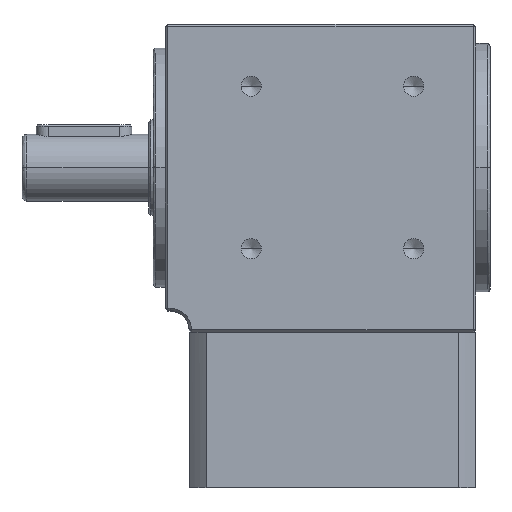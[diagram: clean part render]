
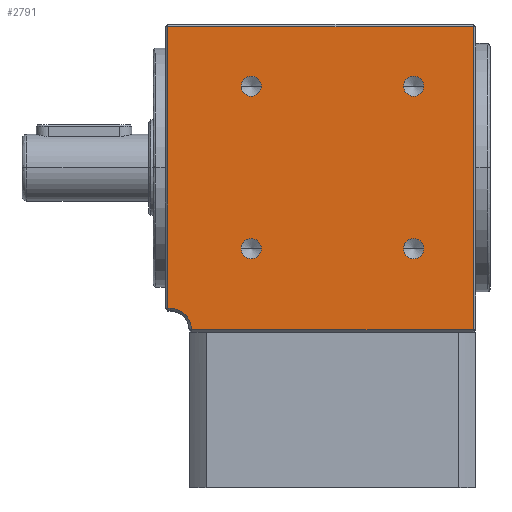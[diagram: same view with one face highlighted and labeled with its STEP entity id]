
A CAD part, top view. The second image highlights one B-rep face of the part: STEP entity #2791.
In plain terms, the highlighted planar face has unit normal (0, 0, 1).
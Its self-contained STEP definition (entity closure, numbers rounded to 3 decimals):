
#3 = CARTESIAN_POINT ( 'NONE',  ( -16.6, 17., 30. ) ) ;
#92 = CARTESIAN_POINT ( 'NONE',  ( 32., -34., 30. ) ) ;
#129 = LINE ( 'NONE', #6268, #2120 ) ;
#381 = EDGE_LOOP ( 'NONE', ( #3003, #8346, #8738, #6991, #8204, #8198 ) ) ;
#409 = EDGE_CURVE ( 'NONE', #3041, #7468, #8222, .T. ) ;
#451 = EDGE_CURVE ( 'NONE', #8792, #4857, #5998, .T. ) ;
#482 = EDGE_CURVE ( 'NONE', #8832, #2230, #5241, .T. ) ;
#483 = ORIENTED_EDGE ( 'NONE', *, *, #1690, .F. ) ;
#515 = EDGE_LOOP ( 'NONE', ( #483, #4224 ) ) ;
#522 = EDGE_CURVE ( 'NONE', #5189, #2685, #595, .T. ) ;
#530 = AXIS2_PLACEMENT_3D ( 'NONE', #7454, #7444, #7435 ) ;
#595 = CIRCLE ( 'NONE', #5652, 2.1 ) ;
#824 = LINE ( 'NONE', #9157, #2585 ) ;
#953 = ORIENTED_EDGE ( 'NONE', *, *, #409, .F. ) ;
#1379 = ORIENTED_EDGE ( 'NONE', *, *, #1677, .F. ) ;
#1635 = ORIENTED_EDGE ( 'NONE', *, *, #522, .F. ) ;
#1677 = EDGE_CURVE ( 'NONE', #2685, #5189, #1814, .T. ) ;
#1690 = EDGE_CURVE ( 'NONE', #2230, #8832, #1702, .T. ) ;
#1691 = EDGE_CURVE ( 'NONE', #4857, #8792, #1731, .T. ) ;
#1702 = CIRCLE ( 'NONE', #2312, 2.1 ) ;
#1707 = EDGE_CURVE ( 'NONE', #7468, #3041, #1853, .T. ) ;
#1713 = CARTESIAN_POINT ( 'NONE',  ( -12.4, -17., 30. ) ) ;
#1723 = EDGE_CURVE ( 'NONE', #3733, #7269, #129, .T. ) ;
#1731 = CIRCLE ( 'NONE', #2267, 2.1 ) ;
#1814 = CIRCLE ( 'NONE', #2326, 2.1 ) ;
#1853 = CIRCLE ( 'NONE', #2238, 2.1 ) ;
#1905 = EDGE_CURVE ( 'NONE', #2483, #2785, #824, .T. ) ;
#1929 = EDGE_LOOP ( 'NONE', ( #1379, #1635 ) ) ;
#2021 = ORIENTED_EDGE ( 'NONE', *, *, #1691, .F. ) ;
#2120 = VECTOR ( 'NONE', #6548, 1000. ) ;
#2170 = EDGE_LOOP ( 'NONE', ( #2021, #3663 ) ) ;
#2227 = EDGE_CURVE ( 'NONE', #2483, #7269, #8591, .T. ) ;
#2229 = EDGE_CURVE ( 'NONE', #3733, #2512, #8634, .T. ) ;
#2230 = VERTEX_POINT ( 'NONE', #7465 ) ;
#2238 = AXIS2_PLACEMENT_3D ( 'NONE', #6339, #6326, #6770 ) ;
#2242 = EDGE_CURVE ( 'NONE', #2512, #3118, #8310, .T. ) ;
#2244 = EDGE_CURVE ( 'NONE', #3118, #2785, #8327, .T. ) ;
#2267 = AXIS2_PLACEMENT_3D ( 'NONE', #6158, #6783, #6060 ) ;
#2312 = AXIS2_PLACEMENT_3D ( 'NONE', #6676, #5722, #5690 ) ;
#2326 = AXIS2_PLACEMENT_3D ( 'NONE', #6308, #6760, #6347 ) ;
#2370 = EDGE_LOOP ( 'NONE', ( #7349, #953 ) ) ;
#2483 = VERTEX_POINT ( 'NONE', #5852 ) ;
#2512 = VERTEX_POINT ( 'NONE', #5846 ) ;
#2585 = VECTOR ( 'NONE', #9129, 1000. ) ;
#2685 = VERTEX_POINT ( 'NONE', #4730 ) ;
#2744 = CARTESIAN_POINT ( 'NONE',  ( -32., 29.5, 30. ) ) ;
#2785 = VERTEX_POINT ( 'NONE', #4267 ) ;
#2791 = ADVANCED_FACE ( 'NONE', ( #4226, #4179, #4095, #4073, #4072 ), #4258, .F. ) ;
#2968 = CARTESIAN_POINT ( 'NONE',  ( 17.4, -17., 30. ) ) ;
#3003 = ORIENTED_EDGE ( 'NONE', *, *, #2227, .T. ) ;
#3041 = VERTEX_POINT ( 'NONE', #2968 ) ;
#3118 = VERTEX_POINT ( 'NONE', #2744 ) ;
#3663 = ORIENTED_EDGE ( 'NONE', *, *, #451, .F. ) ;
#3733 = VERTEX_POINT ( 'NONE', #92 ) ;
#4053 = CARTESIAN_POINT ( 'NONE',  ( 17.4, 17., 30. ) ) ;
#4072 = FACE_BOUND ( 'NONE', #1929, .T. ) ;
#4073 = FACE_BOUND ( 'NONE', #515, .T. ) ;
#4095 = FACE_BOUND ( 'NONE', #2170, .T. ) ;
#4107 = DIRECTION ( 'NONE',  ( -1., 0., 0. ) ) ;
#4114 = DIRECTION ( 'NONE',  ( 0., 0., -1. ) ) ;
#4122 = CARTESIAN_POINT ( 'NONE',  ( 0., 0., 30. ) ) ;
#4179 = FACE_BOUND ( 'NONE', #2370, .T. ) ;
#4224 = ORIENTED_EDGE ( 'NONE', *, *, #482, .F. ) ;
#4226 = FACE_OUTER_BOUND ( 'NONE', #381, .T. ) ;
#4258 = PLANE ( 'NONE',  #8440 ) ;
#4267 = CARTESIAN_POINT ( 'NONE',  ( -32., -29.5, 30. ) ) ;
#4338 = CARTESIAN_POINT ( 'NONE',  ( -16.6, -17., 30. ) ) ;
#4730 = CARTESIAN_POINT ( 'NONE',  ( -12.4, 17., 30. ) ) ;
#4857 = VERTEX_POINT ( 'NONE', #1713 ) ;
#5189 = VERTEX_POINT ( 'NONE', #3 ) ;
#5241 = CIRCLE ( 'NONE', #5871, 2.1 ) ;
#5652 = AXIS2_PLACEMENT_3D ( 'NONE', #8049, #8059, #8290 ) ;
#5690 = DIRECTION ( 'NONE',  ( 1., 0., 0. ) ) ;
#5722 = DIRECTION ( 'NONE',  ( 0., 0., 1. ) ) ;
#5846 = CARTESIAN_POINT ( 'NONE',  ( 32., 29.5, 30. ) ) ;
#5852 = CARTESIAN_POINT ( 'NONE',  ( -31.5, -29.5, 30. ) ) ;
#5871 = AXIS2_PLACEMENT_3D ( 'NONE', #7326, #7341, #7347 ) ;
#5904 = AXIS2_PLACEMENT_3D ( 'NONE', #7434, #7708, #8518 ) ;
#5979 = AXIS2_PLACEMENT_3D ( 'NONE', #7501, #7509, #7539 ) ;
#5998 = CIRCLE ( 'NONE', #5904, 2.1 ) ;
#6060 = DIRECTION ( 'NONE',  ( 1., 0., 0. ) ) ;
#6158 = CARTESIAN_POINT ( 'NONE',  ( -14.5, -17., 30. ) ) ;
#6268 = CARTESIAN_POINT ( 'NONE',  ( 0., -34., 30. ) ) ;
#6308 = CARTESIAN_POINT ( 'NONE',  ( -14.5, 17., 30. ) ) ;
#6326 = DIRECTION ( 'NONE',  ( 0., 0., 1. ) ) ;
#6339 = CARTESIAN_POINT ( 'NONE',  ( 19.5, -17., 30. ) ) ;
#6347 = DIRECTION ( 'NONE',  ( 1., 0., 0. ) ) ;
#6548 = DIRECTION ( 'NONE',  ( -1., 0., 0. ) ) ;
#6676 = CARTESIAN_POINT ( 'NONE',  ( 19.5, 17., 30. ) ) ;
#6760 = DIRECTION ( 'NONE',  ( 0., 0., 1. ) ) ;
#6770 = DIRECTION ( 'NONE',  ( 1., 0., 0. ) ) ;
#6783 = DIRECTION ( 'NONE',  ( 0., 0., 1. ) ) ;
#6991 = ORIENTED_EDGE ( 'NONE', *, *, #2242, .T. ) ;
#7269 = VERTEX_POINT ( 'NONE', #7844 ) ;
#7282 = DIRECTION ( 'NONE',  ( 0., -1., 0. ) ) ;
#7289 = CARTESIAN_POINT ( 'NONE',  ( -32., 0., 30. ) ) ;
#7326 = CARTESIAN_POINT ( 'NONE',  ( 19.5, 17., 30. ) ) ;
#7327 = CARTESIAN_POINT ( 'NONE',  ( 0., 29.5, 30. ) ) ;
#7341 = DIRECTION ( 'NONE',  ( 0., 0., 1. ) ) ;
#7347 = DIRECTION ( 'NONE',  ( 1., 0., 0. ) ) ;
#7349 = ORIENTED_EDGE ( 'NONE', *, *, #1707, .F. ) ;
#7402 = DIRECTION ( 'NONE',  ( -1., 0., 0. ) ) ;
#7434 = CARTESIAN_POINT ( 'NONE',  ( -14.5, -17., 30. ) ) ;
#7435 = DIRECTION ( 'NONE',  ( 0., -1., 0. ) ) ;
#7444 = DIRECTION ( 'NONE',  ( 0., 0., -1. ) ) ;
#7454 = CARTESIAN_POINT ( 'NONE',  ( -31.5, -34., 30. ) ) ;
#7456 = CARTESIAN_POINT ( 'NONE',  ( 32., 0., 30. ) ) ;
#7465 = CARTESIAN_POINT ( 'NONE',  ( 21.6, 17., 30. ) ) ;
#7468 = VERTEX_POINT ( 'NONE', #8365 ) ;
#7501 = CARTESIAN_POINT ( 'NONE',  ( 19.5, -17., 30. ) ) ;
#7509 = DIRECTION ( 'NONE',  ( 0., 0., 1. ) ) ;
#7539 = DIRECTION ( 'NONE',  ( 1., 0., 0. ) ) ;
#7540 = DIRECTION ( 'NONE',  ( 0., 1., 0. ) ) ;
#7708 = DIRECTION ( 'NONE',  ( 0., 0., 1. ) ) ;
#7844 = CARTESIAN_POINT ( 'NONE',  ( -27., -34., 30. ) ) ;
#8049 = CARTESIAN_POINT ( 'NONE',  ( -14.5, 17., 30. ) ) ;
#8059 = DIRECTION ( 'NONE',  ( 0., 0., 1. ) ) ;
#8198 = ORIENTED_EDGE ( 'NONE', *, *, #1905, .F. ) ;
#8204 = ORIENTED_EDGE ( 'NONE', *, *, #2244, .T. ) ;
#8222 = CIRCLE ( 'NONE', #5979, 2.1 ) ;
#8271 = VECTOR ( 'NONE', #7282, 1000. ) ;
#8290 = DIRECTION ( 'NONE',  ( 1., 0., 0. ) ) ;
#8310 = LINE ( 'NONE', #7327, #8484 ) ;
#8327 = LINE ( 'NONE', #7289, #8271 ) ;
#8346 = ORIENTED_EDGE ( 'NONE', *, *, #1723, .F. ) ;
#8365 = CARTESIAN_POINT ( 'NONE',  ( 21.6, -17., 30. ) ) ;
#8440 = AXIS2_PLACEMENT_3D ( 'NONE', #4122, #4114, #4107 ) ;
#8484 = VECTOR ( 'NONE', #7402, 1000. ) ;
#8518 = DIRECTION ( 'NONE',  ( 1., 0., 0. ) ) ;
#8530 = VECTOR ( 'NONE', #7540, 1000. ) ;
#8591 = CIRCLE ( 'NONE', #530, 4.5 ) ;
#8634 = LINE ( 'NONE', #7456, #8530 ) ;
#8738 = ORIENTED_EDGE ( 'NONE', *, *, #2229, .T. ) ;
#8792 = VERTEX_POINT ( 'NONE', #4338 ) ;
#8832 = VERTEX_POINT ( 'NONE', #4053 ) ;
#9129 = DIRECTION ( 'NONE',  ( -1., 0., 0. ) ) ;
#9157 = CARTESIAN_POINT ( 'NONE',  ( 0., -29.5, 30. ) ) ;
